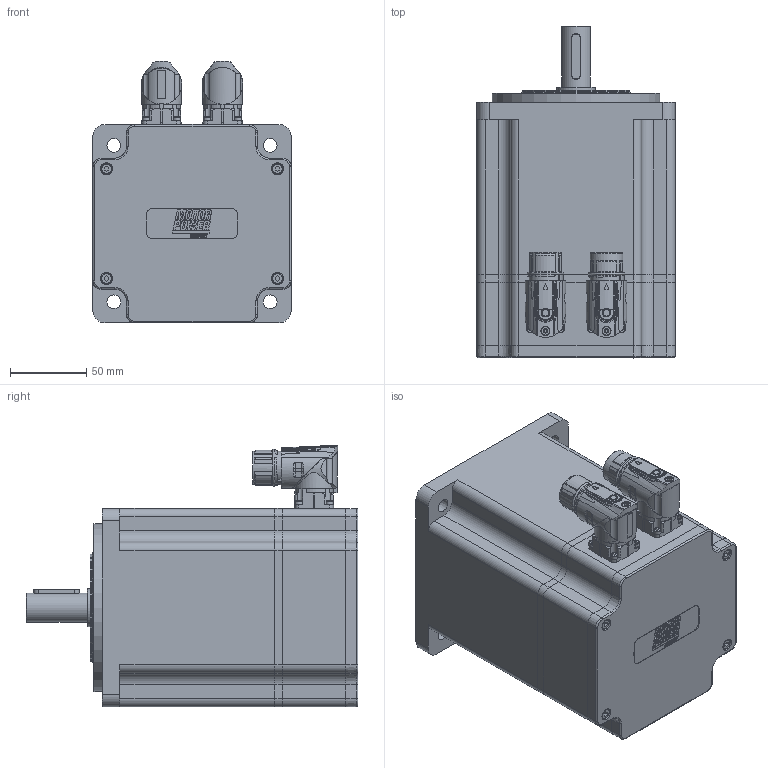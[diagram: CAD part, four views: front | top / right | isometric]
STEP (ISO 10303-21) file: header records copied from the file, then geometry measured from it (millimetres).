
FILE_DESCRIPTION(/* description */ ('Unknown'),/* implementation_level */ '2;1');
FILE_NAME(/* name */ 'TC4-130.5G.XX.X. 3.M1.0.1.C21 Q0C603',/* time_stamp */ '2026-03-05T15:25:33+01:00',/* author */ ('Unknown'),/* organization */ ('Unknown'),/* preprocessor_version */ 'ST-DEVELOPER v19.4',/* originating_system */ 'Solid Edge',/* authorisation */ 'Unknown');
FILE_SCHEMA (('AUTOMOTIVE_DESIGN {1 0 10303 214 3 1 1}'));
Products named in the file (14): Q0C603 5G M1 VUOTO; 005119002009; 005911000432; 007117000456; 005911000185; 003251022006; 003155002224; 005113000500; Corpo TC4-130 5G single cable; 005911000180; 007117000454; 003103040232; 003003199939; 003107003290
Assembly tree (28 placements, depth 2):
  Q0C603 5G M1 VUOTO
    005119002009
    005911000432  x6
    007117000456
    005911000185  x8
    003251022006
    003155002224
    005113000500
    Corpo TC4-130 5G single cable
    005911000180  x4
    007117000454
    003103040232
    003003199939
    003107003290
Bounding box: 130 x 217.5 x 171.5 mm (x, y, z)
Volume: 1043153.9 mm3; surface area: 336876.3 mm2
Topology: 30 solids, 30 shells, 2114 faces, 5331 edges, 3440 vertices
Faces by surface type: plane 943, cylinder 517, cone 253, bspline 231, torus 121, sphere 49
Full cylindrical faces by diameter (mm): 0.5 x1, 1 x21, 1.2 x17, 1.4 x4, 2 x4, 2.013 x16, 2.5 x8, 2.8 x4, 3 x12, 3.242 x26, 4 x11, 4.134 x8, 4.5 x20, 4.7 x8, 4.917 x2, 5.5 x6, 5.8 x1, 5.9 x2, 6 x4, 6.8 x1, 7 x10, 8 x12, 10 x1, 10.4 x4, 15.2 x1, 16 x1, 17.4 x3, 18 x1, 19 x1, 19.9 x1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
Entity records: 74364 total; most frequent: CARTESIAN_POINT 19240, ORIENTED_EDGE 8644, DIRECTION 8265, EDGE_CURVE 4322, AXIS2_PLACEMENT_3D 3168, VERTEX_POINT 3008, FACE_BOUND 2528, EDGE_LOOP 2504
